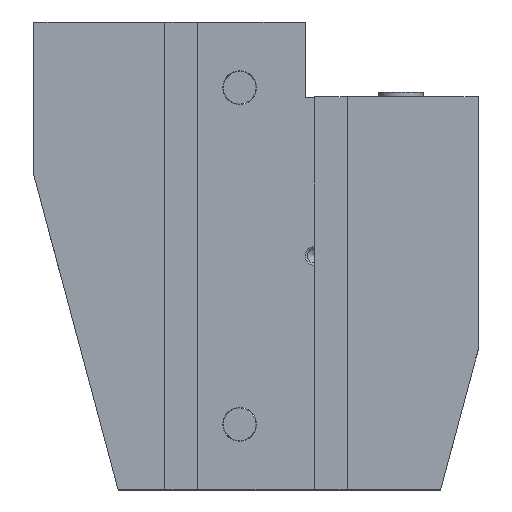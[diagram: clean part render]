
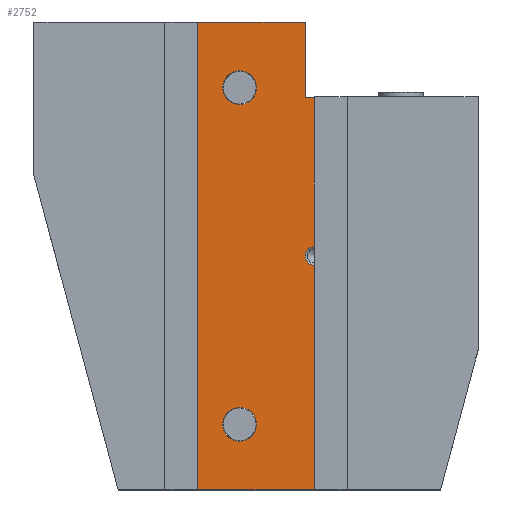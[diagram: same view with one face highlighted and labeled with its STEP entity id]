
A CAD part, top view. The second image highlights one B-rep face of the part: STEP entity #2752.
In plain terms, the highlighted planar face has unit normal (0, 0, 1).
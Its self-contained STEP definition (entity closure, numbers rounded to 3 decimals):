
#51=FACE_BOUND('',#526,.T.);
#52=FACE_BOUND('',#527,.T.);
#53=FACE_BOUND('',#528,.T.);
#54=FACE_BOUND('',#529,.T.);
#194=PLANE('',#3033);
#348=FACE_OUTER_BOUND('',#525,.T.);
#525=EDGE_LOOP('',(#2387,#2388,#2389,#2390,#2391,#2392));
#526=EDGE_LOOP('',(#2393,#2394,#2395,#2396,#2397,#2398,#2399));
#527=EDGE_LOOP('',(#2400));
#528=EDGE_LOOP('',(#2401));
#529=EDGE_LOOP('',(#2402,#2403,#2404,#2405));
#661=LINE('',#4422,#936);
#711=LINE('',#4536,#986);
#715=LINE('',#4545,#990);
#719=LINE('',#4554,#994);
#764=LINE('',#4654,#1039);
#767=LINE('',#4658,#1042);
#774=LINE('',#4671,#1049);
#775=LINE('',#4673,#1050);
#776=LINE('',#4675,#1051);
#777=LINE('',#4677,#1052);
#778=LINE('',#4679,#1053);
#779=LINE('',#4681,#1054);
#780=LINE('',#4682,#1055);
#781=LINE('',#4683,#1056);
#782=LINE('',#4684,#1057);
#936=VECTOR('',#3410,10.);
#986=VECTOR('',#3512,10.);
#990=VECTOR('',#3518,10.);
#994=VECTOR('',#3524,10.);
#1039=VECTOR('',#3657,10.);
#1042=VECTOR('',#3662,10.);
#1049=VECTOR('',#3677,10.);
#1050=VECTOR('',#3680,10.);
#1051=VECTOR('',#3681,10.);
#1052=VECTOR('',#3682,10.);
#1053=VECTOR('',#3683,10.);
#1054=VECTOR('',#3684,10.);
#1055=VECTOR('',#3685,10.);
#1056=VECTOR('',#3686,10.);
#1057=VECTOR('',#3687,10.);
#1145=CIRCLE('',#2848,2.);
#1147=CIRCLE('',#2850,2.);
#1187=CIRCLE('',#2985,3.6);
#1188=CIRCLE('',#3020,3.6);
#1207=VERTEX_POINT('',#3917);
#1208=VERTEX_POINT('',#3918);
#1211=VERTEX_POINT('',#3927);
#1335=VERTEX_POINT('',#4420);
#1336=VERTEX_POINT('',#4421);
#1373=VERTEX_POINT('',#4533);
#1374=VERTEX_POINT('',#4535);
#1377=VERTEX_POINT('',#4542);
#1378=VERTEX_POINT('',#4544);
#1381=VERTEX_POINT('',#4551);
#1382=VERTEX_POINT('',#4553);
#1383=VERTEX_POINT('',#4557);
#1390=VERTEX_POINT('',#4637);
#1393=VERTEX_POINT('',#4653);
#1395=VERTEX_POINT('',#4669);
#1396=VERTEX_POINT('',#4674);
#1397=VERTEX_POINT('',#4676);
#1398=VERTEX_POINT('',#4678);
#1399=VERTEX_POINT('',#4680);
#1469=EDGE_CURVE('',#1211,#1207,#1145,.T.);
#1472=EDGE_CURVE('',#1208,#1211,#1147,.T.);
#1621=EDGE_CURVE('',#1335,#1336,#661,.T.);
#1676=EDGE_CURVE('',#1373,#1374,#711,.T.);
#1680=EDGE_CURVE('',#1377,#1378,#715,.T.);
#1684=EDGE_CURVE('',#1381,#1382,#719,.T.);
#1687=EDGE_CURVE('',#1383,#1383,#1187,.T.);
#1726=EDGE_CURVE('',#1390,#1390,#1188,.T.);
#1733=EDGE_CURVE('',#1374,#1393,#764,.T.);
#1736=EDGE_CURVE('',#1393,#1335,#767,.T.);
#1743=EDGE_CURVE('',#1395,#1373,#774,.T.);
#1744=EDGE_CURVE('',#1336,#1395,#775,.T.);
#1745=EDGE_CURVE('',#1396,#1207,#776,.T.);
#1746=EDGE_CURVE('',#1397,#1396,#777,.T.);
#1747=EDGE_CURVE('',#1398,#1397,#778,.T.);
#1748=EDGE_CURVE('',#1399,#1398,#779,.T.);
#1749=EDGE_CURVE('',#1208,#1399,#780,.T.);
#1750=EDGE_CURVE('',#1382,#1377,#781,.T.);
#1751=EDGE_CURVE('',#1378,#1381,#782,.T.);
#2387=ORIENTED_EDGE('',*,*,#1743,.F.);
#2388=ORIENTED_EDGE('',*,*,#1744,.F.);
#2389=ORIENTED_EDGE('',*,*,#1621,.F.);
#2390=ORIENTED_EDGE('',*,*,#1736,.F.);
#2391=ORIENTED_EDGE('',*,*,#1733,.F.);
#2392=ORIENTED_EDGE('',*,*,#1676,.F.);
#2393=ORIENTED_EDGE('',*,*,#1472,.T.);
#2394=ORIENTED_EDGE('',*,*,#1469,.T.);
#2395=ORIENTED_EDGE('',*,*,#1745,.F.);
#2396=ORIENTED_EDGE('',*,*,#1746,.F.);
#2397=ORIENTED_EDGE('',*,*,#1747,.F.);
#2398=ORIENTED_EDGE('',*,*,#1748,.F.);
#2399=ORIENTED_EDGE('',*,*,#1749,.F.);
#2400=ORIENTED_EDGE('',*,*,#1726,.F.);
#2401=ORIENTED_EDGE('',*,*,#1687,.F.);
#2402=ORIENTED_EDGE('',*,*,#1750,.F.);
#2403=ORIENTED_EDGE('',*,*,#1684,.F.);
#2404=ORIENTED_EDGE('',*,*,#1751,.F.);
#2405=ORIENTED_EDGE('',*,*,#1680,.F.);
#2752=ADVANCED_FACE('',(#348,#51,#52,#53,#54),#194,.F.);
#2848=AXIS2_PLACEMENT_3D('',#3928,#3127,#3128);
#2850=AXIS2_PLACEMENT_3D('',#3932,#3132,#3133);
#2985=AXIS2_PLACEMENT_3D('',#4559,#3529,#3530);
#3020=AXIS2_PLACEMENT_3D('',#4639,#3637,#3638);
#3033=AXIS2_PLACEMENT_3D('',#4672,#3678,#3679);
#3127=DIRECTION('center_axis',(0.,0.,-1.));
#3128=DIRECTION('ref_axis',(1.,0.,0.));
#3132=DIRECTION('center_axis',(0.,0.,-1.));
#3133=DIRECTION('ref_axis',(1.,0.,0.));
#3410=DIRECTION('',(1.,0.,0.));
#3512=DIRECTION('',(0.,1.,0.));
#3518=DIRECTION('',(0.,1.,0.));
#3524=DIRECTION('',(0.,-1.,0.));
#3529=DIRECTION('center_axis',(0.,0.,1.));
#3530=DIRECTION('ref_axis',(-1.,0.,0.));
#3637=DIRECTION('center_axis',(0.,0.,1.));
#3638=DIRECTION('ref_axis',(-1.,0.,0.));
#3657=DIRECTION('',(1.,0.,0.));
#3662=DIRECTION('',(0.,-1.,0.));
#3677=DIRECTION('',(-1.,0.,0.));
#3678=DIRECTION('center_axis',(0.,0.,-1.));
#3679=DIRECTION('ref_axis',(-1.,0.,0.));
#3680=DIRECTION('',(0.,-1.,0.));
#3681=DIRECTION('',(0.,-1.,0.));
#3682=DIRECTION('',(-1.,0.,0.));
#3683=DIRECTION('',(0.,1.,0.));
#3684=DIRECTION('',(1.,0.,0.));
#3685=DIRECTION('',(0.,-1.,0.));
#3686=DIRECTION('',(1.,0.,0.));
#3687=DIRECTION('',(-1.,0.,0.));
#3917=CARTESIAN_POINT('',(12.5,2.,29.5));
#3918=CARTESIAN_POINT('',(12.5,-2.,29.5));
#3927=CARTESIAN_POINT('',(10.5,0.,29.5));
#3928=CARTESIAN_POINT('Origin',(12.5,0.,29.5));
#3932=CARTESIAN_POINT('Origin',(12.5,0.,29.5));
#4420=CARTESIAN_POINT('',(10.5,34.,29.5));
#4421=CARTESIAN_POINT('',(19.51,34.,29.5));
#4422=CARTESIAN_POINT('',(23.75,34.,29.5));
#4533=CARTESIAN_POINT('',(-19.51,-50.,29.5));
#4535=CARTESIAN_POINT('',(-19.51,50.,29.5));
#4536=CARTESIAN_POINT('',(-19.51,50.,29.5));
#4542=CARTESIAN_POINT('',(-12.5,-49.99,29.5));
#4544=CARTESIAN_POINT('',(-12.5,49.99,29.5));
#4545=CARTESIAN_POINT('',(-12.5,49.99,29.5));
#4551=CARTESIAN_POINT('',(-19.5,49.99,29.5));
#4553=CARTESIAN_POINT('',(-19.5,-49.99,29.5));
#4554=CARTESIAN_POINT('',(-19.5,-49.99,29.5));
#4557=CARTESIAN_POINT('',(0.1,36.,29.5));
#4559=CARTESIAN_POINT('Origin',(-3.5,36.,29.5));
#4637=CARTESIAN_POINT('',(0.1,-36.,29.5));
#4639=CARTESIAN_POINT('Origin',(-3.5,-36.,29.5));
#4653=CARTESIAN_POINT('',(10.5,50.,29.5));
#4654=CARTESIAN_POINT('',(23.75,50.,29.5));
#4658=CARTESIAN_POINT('',(10.5,17.,29.5));
#4669=CARTESIAN_POINT('',(19.51,-50.,29.5));
#4671=CARTESIAN_POINT('',(-23.75,-50.,29.5));
#4672=CARTESIAN_POINT('Origin',(0.,0.,29.5));
#4673=CARTESIAN_POINT('',(19.51,-50.,29.5));
#4674=CARTESIAN_POINT('',(12.5,33.99,29.5));
#4675=CARTESIAN_POINT('',(12.5,-49.99,29.5));
#4676=CARTESIAN_POINT('',(19.5,33.99,29.5));
#4677=CARTESIAN_POINT('',(12.5,33.99,29.5));
#4678=CARTESIAN_POINT('',(19.5,-49.99,29.5));
#4679=CARTESIAN_POINT('',(19.5,33.99,29.5));
#4680=CARTESIAN_POINT('',(12.5,-49.99,29.5));
#4681=CARTESIAN_POINT('',(19.5,-49.99,29.5));
#4682=CARTESIAN_POINT('',(12.5,-49.99,29.5));
#4683=CARTESIAN_POINT('',(-12.5,-49.99,29.5));
#4684=CARTESIAN_POINT('',(-19.5,49.99,29.5));
